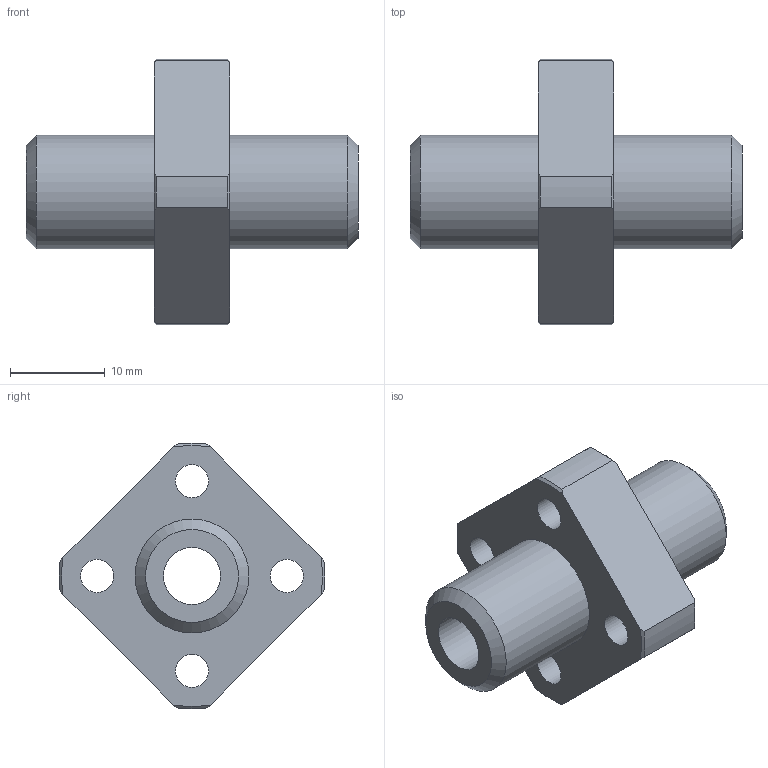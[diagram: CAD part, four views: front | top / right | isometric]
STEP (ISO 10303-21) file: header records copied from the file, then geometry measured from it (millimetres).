
FILE_DESCRIPTION(('STEP AP203'),'1');
FILE_NAME('//192.168.1.1/share/s-4 技術開発/s-4-4_CAD/s-4-4-3_見直し済み/PBC LINEAR修正済み/CFPJ/CFPJ_TOP/CFPJ/CFPJ06.step','2022-03-24T04:10:06',(' '),(' '),'Spatial InterOp 3D',' ',' ');
FILE_SCHEMA(('CONFIG_CONTROL_DESIGN'));
Length unit declared in the file: millimetre
Products named in the file (1): 1
Bounding box: 35 x 27.98 x 27.98 mm (x, y, z)
Volume: 5272.5 mm3; surface area: 3545.3 mm2
Topology: 1 solids, 1 shells, 37 faces, 90 edges, 61 vertices
Faces by surface type: cylinder 15, plane 12, cone 10
Full cylindrical faces by diameter (mm): 3.5 x4, 6 x5, 12 x2
Entity records: 1078 total; most frequent: CARTESIAN_POINT 214, DIRECTION 172, ORIENTED_EDGE 144, AXIS2_PLACEMENT_3D 78, EDGE_CURVE 72, EDGE_LOOP 66, VERTEX_POINT 56, FACE_OUTER_BOUND 48
